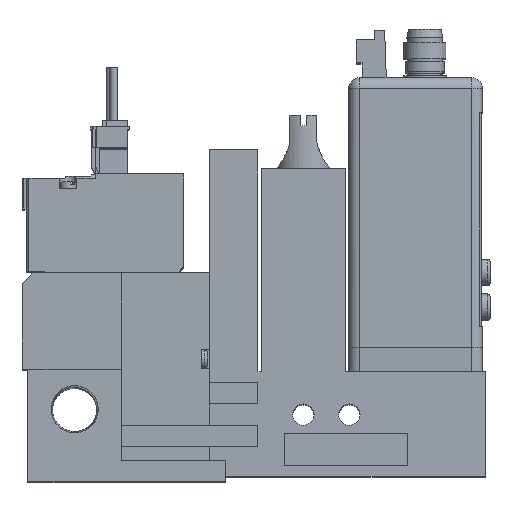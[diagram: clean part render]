
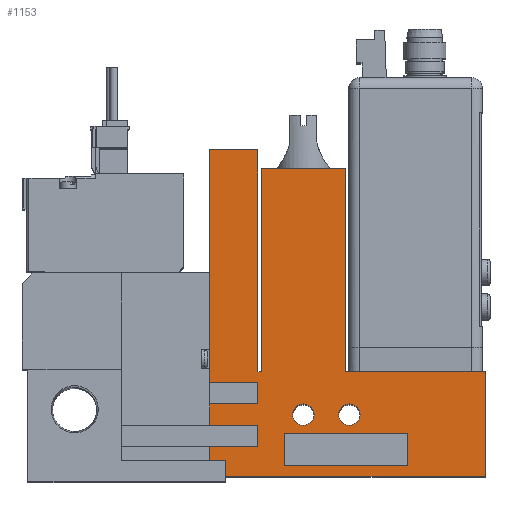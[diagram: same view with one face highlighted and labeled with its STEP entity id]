
A CAD part, top view. The second image highlights one B-rep face of the part: STEP entity #1153.
In plain terms, the highlighted planar face has unit normal (0, 0, 1).
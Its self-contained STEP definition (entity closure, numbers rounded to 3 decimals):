
#1153=ADVANCED_FACE('',(#4812,#4813,#4814,#4815),#4816,.T.);
#4812=FACE_OUTER_BOUND('',#12444,.T.);
#4813=FACE_BOUND('',#12445,.T.);
#4814=FACE_BOUND('',#12446,.T.);
#4815=FACE_BOUND('',#12447,.T.);
#4816=PLANE('',#12448);
#12444=EDGE_LOOP('',(#22081,#22082,#22083,#22084,#22085,#22086,#22087,#22088,#22089,#22090,#22091,#22092,#22093,#22094,#22095,#22096,#22097,#22098));
#12445=EDGE_LOOP('',(#22099,#22100,#22101,#22102));
#12446=EDGE_LOOP('',(#22103));
#12447=EDGE_LOOP('',(#22104));
#12448=AXIS2_PLACEMENT_3D('',#22105,#22106,#22107);
#22081=ORIENTED_EDGE('',*,*,#46442,.T.);
#22082=ORIENTED_EDGE('',*,*,#46419,.T.);
#22083=ORIENTED_EDGE('',*,*,#46414,.T.);
#22084=ORIENTED_EDGE('',*,*,#46416,.T.);
#22085=ORIENTED_EDGE('',*,*,#46384,.T.);
#22086=ORIENTED_EDGE('',*,*,#46477,.T.);
#22087=ORIENTED_EDGE('',*,*,#46407,.T.);
#22088=ORIENTED_EDGE('',*,*,#46475,.T.);
#22089=ORIENTED_EDGE('',*,*,#46393,.T.);
#22090=ORIENTED_EDGE('',*,*,#46481,.T.);
#22091=ORIENTED_EDGE('',*,*,#46467,.T.);
#22092=ORIENTED_EDGE('',*,*,#46464,.T.);
#22093=ORIENTED_EDGE('',*,*,#46461,.T.);
#22094=ORIENTED_EDGE('',*,*,#46457,.T.);
#22095=ORIENTED_EDGE('',*,*,#46454,.T.);
#22096=ORIENTED_EDGE('',*,*,#46451,.T.);
#22097=ORIENTED_EDGE('',*,*,#46448,.T.);
#22098=ORIENTED_EDGE('',*,*,#46445,.T.);
#22099=ORIENTED_EDGE('',*,*,#46430,.T.);
#22100=ORIENTED_EDGE('',*,*,#46431,.T.);
#22101=ORIENTED_EDGE('',*,*,#46426,.T.);
#22102=ORIENTED_EDGE('',*,*,#46428,.T.);
#22103=ORIENTED_EDGE('',*,*,#46400,.T.);
#22104=ORIENTED_EDGE('',*,*,#46398,.T.);
#22105=CARTESIAN_POINT('',(0.0,0.0,10.0));
#22106=DIRECTION('',(0.0,0.0,1.0));
#22107=DIRECTION('',(1.0,0.0,0.0));
#46384=EDGE_CURVE('',#56058,#56056,#56059,.T.);
#46393=EDGE_CURVE('',#56070,#56074,#56076,.T.);
#46398=EDGE_CURVE('',#56084,#56084,#56085,.T.);
#46400=EDGE_CURVE('',#56088,#56088,#56089,.T.);
#46407=EDGE_CURVE('',#56098,#56100,#56102,.T.);
#46414=EDGE_CURVE('',#56111,#56113,#56115,.T.);
#46416=EDGE_CURVE('',#56113,#56058,#56117,.T.);
#46419=EDGE_CURVE('',#56118,#56111,#56122,.T.);
#46426=EDGE_CURVE('',#56131,#56133,#56135,.T.);
#46428=EDGE_CURVE('',#56133,#56136,#56138,.T.);
#46430=EDGE_CURVE('',#56136,#56139,#56141,.T.);
#46431=EDGE_CURVE('',#56139,#56131,#56142,.T.);
#46442=EDGE_CURVE('',#56160,#56118,#56161,.T.);
#46445=EDGE_CURVE('',#56165,#56160,#56166,.T.);
#46448=EDGE_CURVE('',#56170,#56165,#56171,.T.);
#46451=EDGE_CURVE('',#56175,#56170,#56176,.T.);
#46454=EDGE_CURVE('',#56180,#56175,#56181,.T.);
#46457=EDGE_CURVE('',#56185,#56180,#56186,.T.);
#46461=EDGE_CURVE('',#56191,#56185,#56192,.T.);
#46464=EDGE_CURVE('',#56196,#56191,#56197,.T.);
#46467=EDGE_CURVE('',#56201,#56196,#56202,.T.);
#46475=EDGE_CURVE('',#56100,#56070,#56212,.T.);
#46477=EDGE_CURVE('',#56056,#56098,#56214,.T.);
#46481=EDGE_CURVE('',#56074,#56201,#56219,.T.);
#56056=VERTEX_POINT('',#70425);
#56058=VERTEX_POINT('',#70428);
#56059=LINE('',#70429,#70430);
#56070=VERTEX_POINT('',#70446);
#56074=VERTEX_POINT('',#70452);
#56076=LINE('',#70455,#70456);
#56084=VERTEX_POINT('',#70467);
#56085=CIRCLE('',#70468,2.0);
#56088=VERTEX_POINT('',#70471);
#56089=CIRCLE('',#70472,2.0);
#56098=VERTEX_POINT('',#70485);
#56100=VERTEX_POINT('',#70488);
#56102=LINE('',#70491,#70492);
#56111=VERTEX_POINT('',#70505);
#56113=VERTEX_POINT('',#70508);
#56115=LINE('',#70511,#70512);
#56117=LINE('',#70515,#70516);
#56118=VERTEX_POINT('',#70517);
#56122=LINE('',#70523,#70524);
#56131=VERTEX_POINT('',#70537);
#56133=VERTEX_POINT('',#70540);
#56135=LINE('',#70543,#70544);
#56136=VERTEX_POINT('',#70545);
#56138=LINE('',#70548,#70549);
#56139=VERTEX_POINT('',#70550);
#56141=LINE('',#70553,#70554);
#56142=LINE('',#70555,#70556);
#56160=VERTEX_POINT('',#70584);
#56161=LINE('',#70585,#70586);
#56165=VERTEX_POINT('',#70592);
#56166=LINE('',#70593,#70594);
#56170=VERTEX_POINT('',#70600);
#56171=LINE('',#70601,#70602);
#56175=VERTEX_POINT('',#70608);
#56176=LINE('',#70609,#70610);
#56180=VERTEX_POINT('',#70616);
#56181=LINE('',#70617,#70618);
#56185=VERTEX_POINT('',#70624);
#56186=LINE('',#70625,#70626);
#56191=VERTEX_POINT('',#70633);
#56192=LINE('',#70634,#70635);
#56196=VERTEX_POINT('',#70641);
#56197=LINE('',#70642,#70643);
#56201=VERTEX_POINT('',#70649);
#56202=LINE('',#70650,#70651);
#56212=LINE('',#70668,#70669);
#56214=LINE('',#70672,#70673);
#56219=LINE('',#70681,#70682);
#70425=CARTESIAN_POINT('',(35.1,9.5,10.0));
#70428=CARTESIAN_POINT('',(35.1,13.5,10.0));
#70429=CARTESIAN_POINT('',(35.1,0.0,10.0));
#70430=VECTOR('',#90665,1.0);
#70446=CARTESIAN_POINT('',(35.1,5.5,10.0));
#70452=CARTESIAN_POINT('',(35.1,0.0,10.0));
#70455=CARTESIAN_POINT('',(35.1,0.0,10.0));
#70456=VECTOR('',#90674,1.0);
#70467=CARTESIAN_POINT('',(63.2,11.5,10.0));
#70468=AXIS2_PLACEMENT_3D('',#90681,#90682,#90683);
#70471=CARTESIAN_POINT('',(54.6,11.5,10.0));
#70472=AXIS2_PLACEMENT_3D('',#90687,#90688,#90689);
#70485=CARTESIAN_POINT('',(44.1,9.5,10.0));
#70488=CARTESIAN_POINT('',(44.1,5.5,10.0));
#70491=CARTESIAN_POINT('',(44.1,0.0,10.0));
#70492=VECTOR('',#90696,1.0);
#70505=CARTESIAN_POINT('',(44.1,17.5,10.0));
#70508=CARTESIAN_POINT('',(44.1,13.5,10.0));
#70511=CARTESIAN_POINT('',(44.1,0.0,10.0));
#70512=VECTOR('',#90703,1.0);
#70515=CARTESIAN_POINT('',(0.0,13.5,10.0));
#70516=VECTOR('',#90705,1.0);
#70517=CARTESIAN_POINT('',(35.1,17.5,10.0));
#70523=CARTESIAN_POINT('',(0.0,17.5,10.0));
#70524=VECTOR('',#90708,1.0);
#70537=CARTESIAN_POINT('',(72.1,8.0,10.0));
#70540=CARTESIAN_POINT('',(72.1,2.0,10.0));
#70543=CARTESIAN_POINT('',(72.1,0.0,10.0));
#70544=VECTOR('',#90715,1.0);
#70545=CARTESIAN_POINT('',(49.1,2.0,10.0));
#70548=CARTESIAN_POINT('',(0.0,2.0,10.0));
#70549=VECTOR('',#90717,1.0);
#70550=CARTESIAN_POINT('',(49.1,8.0,10.0));
#70553=CARTESIAN_POINT('',(49.1,0.0,10.0));
#70554=VECTOR('',#90719,1.0);
#70555=CARTESIAN_POINT('',(0.0,8.0,10.0));
#70556=VECTOR('',#90720,1.0);
#70584=CARTESIAN_POINT('',(35.1,61.0,10.0));
#70585=CARTESIAN_POINT('',(35.1,61.0,10.0));
#70586=VECTOR('',#90731,1.0);
#70592=CARTESIAN_POINT('',(44.1,61.0,10.0));
#70593=CARTESIAN_POINT('',(44.1,61.0,10.0));
#70594=VECTOR('',#90734,1.0);
#70600=CARTESIAN_POINT('',(44.1,19.5,10.0));
#70601=CARTESIAN_POINT('',(44.1,19.5,10.0));
#70602=VECTOR('',#90737,1.0);
#70608=CARTESIAN_POINT('',(44.75,19.5,10.0));
#70609=CARTESIAN_POINT('',(44.75,19.5,10.0));
#70610=VECTOR('',#90740,1.0);
#70616=CARTESIAN_POINT('',(44.75,57.5,10.0));
#70617=CARTESIAN_POINT('',(44.75,57.5,10.0));
#70618=VECTOR('',#90743,1.0);
#70624=CARTESIAN_POINT('',(60.45,57.5,10.0));
#70625=CARTESIAN_POINT('',(60.45,57.5,10.0));
#70626=VECTOR('',#90746,1.0);
#70633=CARTESIAN_POINT('',(60.45,19.5,10.0));
#70634=CARTESIAN_POINT('',(60.45,19.5,10.0));
#70635=VECTOR('',#90752,1.0);
#70641=CARTESIAN_POINT('',(86.6,19.5,10.0));
#70642=CARTESIAN_POINT('',(86.6,19.5,10.0));
#70643=VECTOR('',#90755,1.0);
#70649=CARTESIAN_POINT('',(86.6,0.0,10.0));
#70650=CARTESIAN_POINT('',(86.6,0.0,10.0));
#70651=VECTOR('',#90758,1.0);
#70668=CARTESIAN_POINT('',(0.0,5.5,10.0));
#70669=VECTOR('',#90766,1.0);
#70672=CARTESIAN_POINT('',(0.0,9.5,10.0));
#70673=VECTOR('',#90768,1.0);
#70681=CARTESIAN_POINT('',(18.6,0.0,10.0));
#70682=VECTOR('',#90772,1.0);
#90665=DIRECTION('',(0.0,-1.0,0.0));
#90674=DIRECTION('',(0.0,-1.0,0.0));
#90681=CARTESIAN_POINT('',(61.2,11.5,10.0));
#90682=DIRECTION('',(0.0,0.0,-1.0));
#90683=DIRECTION('',(1.0,0.0,0.0));
#90687=CARTESIAN_POINT('',(52.6,11.5,10.0));
#90688=DIRECTION('',(0.0,0.0,-1.0));
#90689=DIRECTION('',(1.0,0.0,0.0));
#90696=DIRECTION('',(0.0,-1.0,0.0));
#90703=DIRECTION('',(0.0,-1.0,0.0));
#90705=DIRECTION('',(-1.0,0.0,0.0));
#90708=DIRECTION('',(1.0,0.0,0.0));
#90715=DIRECTION('',(0.0,-1.0,0.0));
#90717=DIRECTION('',(-1.0,0.0,0.0));
#90719=DIRECTION('',(0.0,1.0,0.0));
#90720=DIRECTION('',(1.0,0.0,0.0));
#90731=DIRECTION('',(0.0,-1.0,0.0));
#90734=DIRECTION('',(-1.0,0.0,0.0));
#90737=DIRECTION('',(0.0,1.0,0.0));
#90740=DIRECTION('',(-1.0,0.0,0.0));
#90743=DIRECTION('',(0.0,-1.0,0.0));
#90746=DIRECTION('',(-1.0,0.0,0.0));
#90752=DIRECTION('',(0.0,1.0,0.0));
#90755=DIRECTION('',(-1.0,0.0,0.0));
#90758=DIRECTION('',(0.0,1.0,0.0));
#90766=DIRECTION('',(-1.0,0.0,0.0));
#90768=DIRECTION('',(1.0,0.0,0.0));
#90772=DIRECTION('',(1.0,0.0,0.0));
